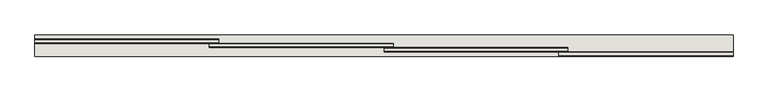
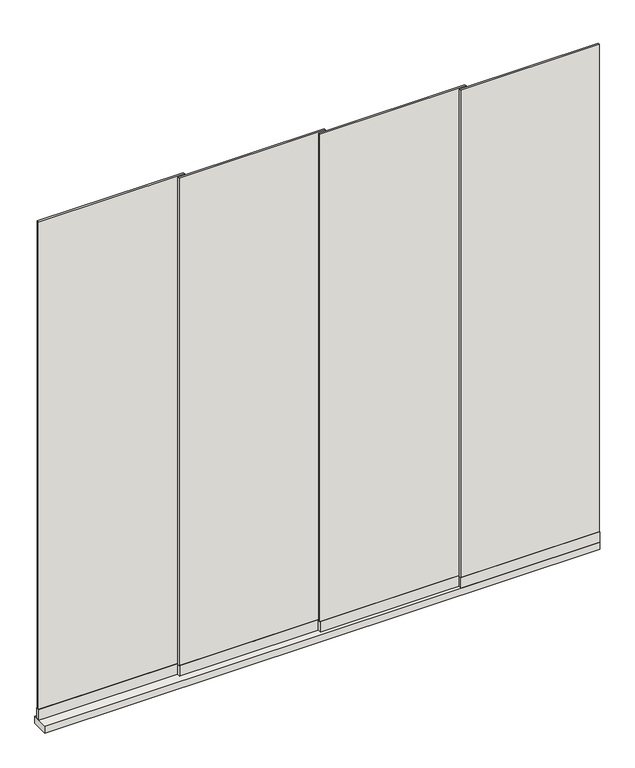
"""IFC4 building model written with IfcOpenShell, lengths in millimetres: wall geometry, Renson_Amani_Glass_Sliding_Panel : Renson_Amani_Glass_Sliding_Panel."""

from ifc_helpers import new_model, si_unit, frame, origin, origin_with_axes, place, context, project, spatial, polyline, outline, extrude, source, transform, mapped, element, save


def wall_e7443eef(model_context):
    return source(origin(), model_context, "Body", "SweptSolid", [
        extrude(outline(polyline([(-1165.0, 48.0), (-1850.0, 48.0), (-1850.0, 64.0), (-1165.0, 64.0), (-1165.0, 48.0)])), frame((0.0, 0.0, 35.0), z_axis=(0.0, 0.0, 1.0), x_axis=(1.0, 0.0, 0.0)), (0.0, 0.0, 1.0), 51.0),
        extrude(outline(polyline([(750.0, 0.0), (-1850.0, 0.0), (-1850.0, 80.0), (750.0, 80.0), (750.0, 0.0)])), origin_with_axes(), (0.0, 0.0, 1.0), 35.0),
        extrude(outline(polyline([(750.0, 3.0), (100.0, 3.0), (100.0, 13.0), (750.0, 13.0), (750.0, 3.0)])), frame((0.0, 0.0, 86.0), z_axis=(0.0, 0.0, 1.0), x_axis=(1.0, 0.0, 0.0)), (0.0, 0.0, 1.0), 2414.0),
        extrude(outline(polyline([(135.0, 19.0), (-550.0, 19.0), (-550.0, 29.0), (135.0, 29.0), (135.0, 19.0)])), frame((0.0, 0.0, 86.0), z_axis=(0.0, 0.0, 1.0), x_axis=(1.0, 0.0, 0.0)), (0.0, 0.0, 1.0), 2414.0),
        extrude(outline(polyline([(-1165.0, 51.0), (-1850.0, 51.0), (-1850.0, 61.0), (-1165.0, 61.0), (-1165.0, 51.0)])), frame((0.0, 0.0, 86.0), z_axis=(0.0, 0.0, 1.0), x_axis=(1.0, 0.0, 0.0)), (0.0, 0.0, 1.0), 2414.0),
        extrude(outline(polyline([(-515.0, 35.0), (-1200.0, 35.0), (-1200.0, 45.0), (-515.0, 45.0), (-515.0, 35.0)])), frame((0.0, 0.0, 86.0), z_axis=(0.0, 0.0, 1.0), x_axis=(1.0, 0.0, 0.0)), (0.0, 0.0, 1.0), 2414.0),
        extrude(outline(polyline([(750.0, 0.0), (100.0, 0.0), (100.0, 16.0), (750.0, 16.0), (750.0, 0.0)])), frame((0.0, 0.0, 35.0), z_axis=(0.0, 0.0, 1.0), x_axis=(1.0, 0.0, 0.0)), (0.0, 0.0, 1.0), 51.0),
        extrude(outline(polyline([(135.0, 16.0), (-550.0, 16.0), (-550.0, 32.0), (135.0, 32.0), (135.0, 16.0)])), frame((0.0, 0.0, 35.0), z_axis=(0.0, 0.0, 1.0), x_axis=(1.0, 0.0, 0.0)), (0.0, 0.0, 1.0), 51.0),
        extrude(outline(polyline([(-515.0, 32.0), (-1200.0, 32.0), (-1200.0, 48.0), (-515.0, 48.0), (-515.0, 32.0)])), frame((0.0, 0.0, 35.0), z_axis=(0.0, 0.0, 1.0), x_axis=(1.0, 0.0, 0.0)), (0.0, 0.0, 1.0), 51.0),
    ])


if __name__ == "__main__":
    model = new_model("IFC4")
    model_context = context("Model", 3, world=origin())
    ifc_project = project(units=[si_unit("LENGTHUNIT", "METRE", prefix="MILLI")], contexts=[model_context])
    site = spatial("IfcSite", under=ifc_project)
    building = spatial("IfcBuilding", under=site)
    placement = place(None, origin())
    wall_shape = wall_e7443eef(model_context)
    element("IfcWall", 1, ObjectType="Renson_Amani_Glass_Sliding_Panel : Renson_Amani_Glass_Sliding_Panel", at=placement, inside=building, context=model_context, shape_type="MappedRepresentation", body=[
        mapped(wall_shape, transform((0.0, 0.0, 0.0), x_axis=(1.0, 0.0, 0.0), y_axis=(0.0, 1.0, 0.0), z_axis=(0.0, 0.0, 1.0))),
    ])
    save(model, "model.ifc")
